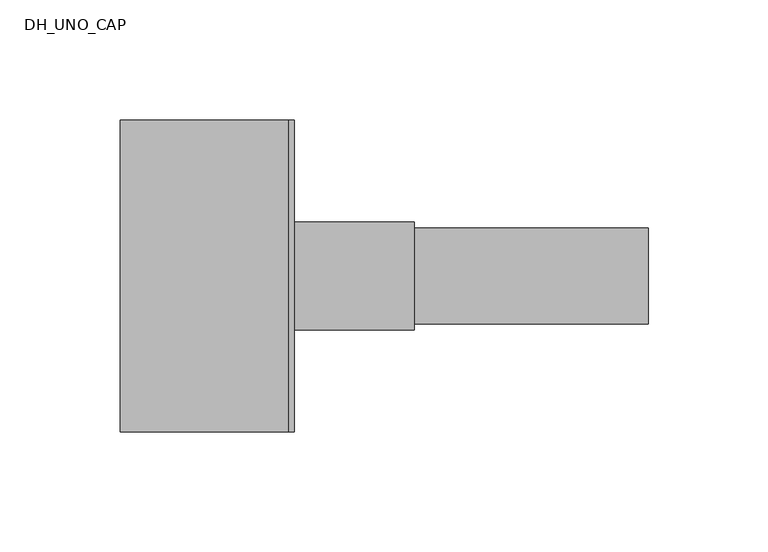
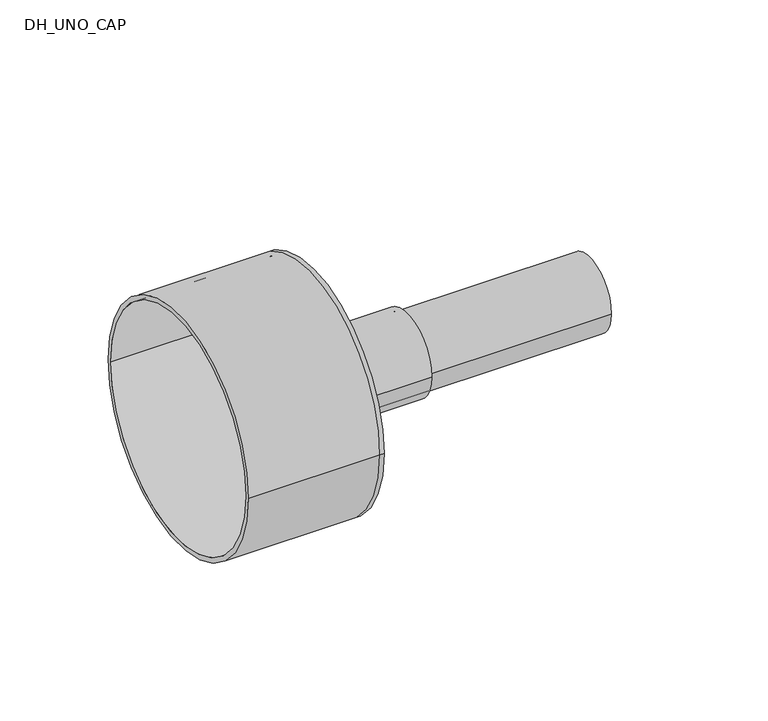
"""IFC4 building model written with IfcOpenShell, lengths in millimetres: pipe fitting geometry, DH_UNO_CAP : RAUVIPEX UNO + 11 Heating - Schrink Cap."""

from ifc_helpers import new_model, si_unit, point, frame, origin, origin_2d, place, context, project, spatial, polyline, circle_curve, trimmed, segment, composite_curve, outline, extrude, source, transform, mapped, element, save
from ifc_brep_helpers import plane_surface, cylinder_surface, revolved_surface, advanced_brep


def dh_uno_cap_9340323c(model_context):
    return source(origin(), model_context, "Body", "SolidModel", [
        extrude(outline(composite_curve([segment(trimmed(circle_curve(origin_2d(), 20.0), [point((-20.0, 0.0))], [point((20.0, 0.0))], False, "CARTESIAN"), True, "CONTINUOUS"), segment(trimmed(circle_curve(origin_2d(), 20.0), [point((20.0, 0.0))], [point((-20.0, 0.0))], False, "CARTESIAN"), True, "CONTINUOUS")], self_intersect=False), holes=[composite_curve([segment(trimmed(circle_curve(origin_2d(), 16.3), [point((-16.3, 0.0))], [point((16.3, 0.0))], True, "CARTESIAN"), True, "CONTINUOUS"), segment(trimmed(circle_curve(origin_2d(), 16.3), [point((16.3, 0.0))], [point((-16.3, 0.0))], True, "CARTESIAN"), True, "CONTINUOUS")], self_intersect=False)]), frame((0.0, 0.0, 0.0), z_axis=(1.0, 0.0, 0.0), x_axis=(0.0, 1.0, 0.0)), (0.0, 0.0, 1.0), 150.0),
        advanced_brep(
        [(-70.0, -65.0, 0.0), (-70.0, 65.0, 0.0), (-70.0, -62.5, 0.0), (-70.0, 62.5, 0.0), (0.0, -62.5, 0.0), (0.0, 62.5, 0.0), (0.0, -65.0, 0.0), (0.0, 65.0, 0.0), (0.0, 20.0, 0.0), (0.0, -20.0, 0.0), (2.5, -65.0, 0.0), (2.5, 65.0, 0.0), (2.5, -20.0, 0.0), (2.5, 20.0, 0.0)],
        [
            (0, 1, circle_curve(frame((-70.0, 0.0, 0.0), z_axis=(-1.0, 0.0, 0.0), x_axis=(0.0, 1.0, 0.0)), 65.0)),
            (1, 0, circle_curve(frame((-70.0, 0.0, 0.0), z_axis=(-1.0, 0.0, 0.0), x_axis=(0.0, 1.0, 0.0)), 65.0)),
            (2, 3, circle_curve(frame((-70.0, 0.0, 0.0), z_axis=(1.0, 0.0, 0.0), x_axis=(0.0, 1.0, 0.0)), 62.5)),
            (3, 2, circle_curve(frame((-70.0, 0.0, 0.0), z_axis=(1.0, 0.0, 0.0), x_axis=(0.0, 1.0, 0.0)), 62.5)),
            (2, 4),
            (4, 5, circle_curve(frame((0.0, 0.0, 0.0), z_axis=(1.0, 0.0, 0.0), x_axis=(0.0, 1.0, 0.0)), 62.5)),
            (5, 3),
            (5, 4, circle_curve(frame((0.0, 0.0, 0.0), z_axis=(1.0, 0.0, 0.0), x_axis=(0.0, 1.0, 0.0)), 62.5)),
            (0, 6),
            (6, 7, circle_curve(frame((0.0, 0.0, 0.0), z_axis=(-1.0, 0.0, 0.0), x_axis=(0.0, 1.0, 0.0)), 65.0)),
            (7, 1),
            (7, 6, circle_curve(frame((0.0, 0.0, 0.0), z_axis=(-1.0, 0.0, 0.0), x_axis=(0.0, 1.0, 0.0)), 65.0)),
            (8, 9, circle_curve(frame((0.0, 0.0, 0.0), z_axis=(1.0, 0.0, 0.0), x_axis=(0.0, 1.0, 0.0)), 20.0)),
            (9, 8, circle_curve(frame((0.0, 0.0, 0.0), z_axis=(1.0, 0.0, 0.0), x_axis=(0.0, 1.0, 0.0)), 20.0)),
            (10, 11, circle_curve(frame((2.5, 0.0, 0.0), z_axis=(1.0, 0.0, 0.0), x_axis=(0.0, 1.0, 0.0)), 65.0)),
            (11, 10, circle_curve(frame((2.5, 0.0, 0.0), z_axis=(1.0, 0.0, 0.0), x_axis=(0.0, 1.0, 0.0)), 65.0)),
            (12, 13, circle_curve(frame((2.5, 0.0, 0.0), z_axis=(-1.0, 0.0, 0.0), x_axis=(0.0, 1.0, 0.0)), 20.0)),
            (13, 12, circle_curve(frame((2.5, 0.0, 0.0), z_axis=(-1.0, 0.0, 0.0), x_axis=(0.0, 1.0, 0.0)), 20.0)),
            (11, 7),
            (6, 10),
            (8, 13),
            (12, 9),
        ],
        [
            plane_surface(frame((-70.0, 0.0, 0.0), z_axis=(-1.0, 0.0, 0.0), x_axis=(0.0, 0.0, 1.0))),
            revolved_surface(polyline([(0.0, 62.5, 0.0), (-70.0, 62.5, 0.0)]), (-70.0, 0.0, 0.0), (1.0, 0.0, 0.0)),
            cylinder_surface(frame((-70.0, 0.0, 0.0), z_axis=(-1.0, 0.0, 0.0), x_axis=(0.0, 1.0, 0.0)), 65.0),
            plane_surface(frame((0.0, 0.0, 0.0), z_axis=(-1.0, 0.0, 0.0), x_axis=(0.0, 0.0, 1.0))),
            plane_surface(frame((2.5, 0.0, 0.0), z_axis=(1.0, 0.0, 0.0), x_axis=(0.0, 0.0, 1.0))),
            cylinder_surface(frame((0.0, 0.0, 0.0), z_axis=(-1.0, 0.0, 0.0), x_axis=(0.0, 1.0, 0.0)), 65.0),
            revolved_surface(polyline([(0.0, 20.0, 0.0), (2.5, 20.0, 0.0)]), (0.0, 0.0, 0.0), (-1.0, 0.0, 0.0)),
        ],
        [
            (0, [[1, 2], [3, 4]]),
            (1, [[-3, 5, 6, 7]]),
            (1, [[-4, -7, 8, -5]]),
            (2, [[-1, 9, 10, 11]]),
            (2, [[-2, -11, 12, -9]]),
            (3, [[-6, -8], [13, 14]]),
            (4, [[15, 16], [17, 18]]),
            (5, [[-16, 19, -10, 20]]),
            (5, [[-15, -20, -12, -19]]),
            (6, [[21, -17, 22, -13]]),
            (6, [[-21, -14, -22, -18]]),
        ],
    ),
        extrude(outline(composite_curve([segment(trimmed(circle_curve(origin_2d(), 22.5), [point((-22.5, 0.0))], [point((22.5, 0.0))], False, "CARTESIAN"), True, "CONTINUOUS"), segment(trimmed(circle_curve(origin_2d(), 22.5), [point((22.5, 0.0))], [point((-22.5, 0.0))], False, "CARTESIAN"), True, "CONTINUOUS")], self_intersect=False), holes=[composite_curve([segment(trimmed(circle_curve(origin_2d(), 20.0), [point((-20.0, 0.0))], [point((20.0, 0.0))], True, "CARTESIAN"), True, "CONTINUOUS"), segment(trimmed(circle_curve(origin_2d(), 20.0), [point((20.0, 0.0))], [point((-20.0, 0.0))], True, "CARTESIAN"), True, "CONTINUOUS")], self_intersect=False)]), frame((2.5, 0.0, 0.0), z_axis=(1.0, 0.0, 0.0), x_axis=(0.0, 1.0, 0.0)), (0.0, 0.0, 1.0), 50.0),
    ])


if __name__ == "__main__":
    model = new_model("IFC4")
    model_context = context("Model", 3, world=origin())
    ifc_project = project(units=[si_unit("LENGTHUNIT", "METRE", prefix="MILLI")], contexts=[model_context])
    site = spatial("IfcSite", under=ifc_project)
    building = spatial("IfcBuilding", under=site)
    placement = place(None, origin())
    dh_uno_cap_shape = dh_uno_cap_9340323c(model_context)
    element("IfcPipeFitting", 1, ObjectType="DH_UNO_CAP : RAUVIPEX UNO + 11 Heating - Schrink Cap", at=placement, inside=building, context=model_context, shape_type="MappedRepresentation", body=[
        mapped(dh_uno_cap_shape, transform((0.0, 0.0, 0.0), x_axis=(1.0, 0.0, 0.0), y_axis=(0.0, 1.0, 0.0), z_axis=(0.0, 0.0, 1.0))),
    ])
    save(model, "model.ifc")
